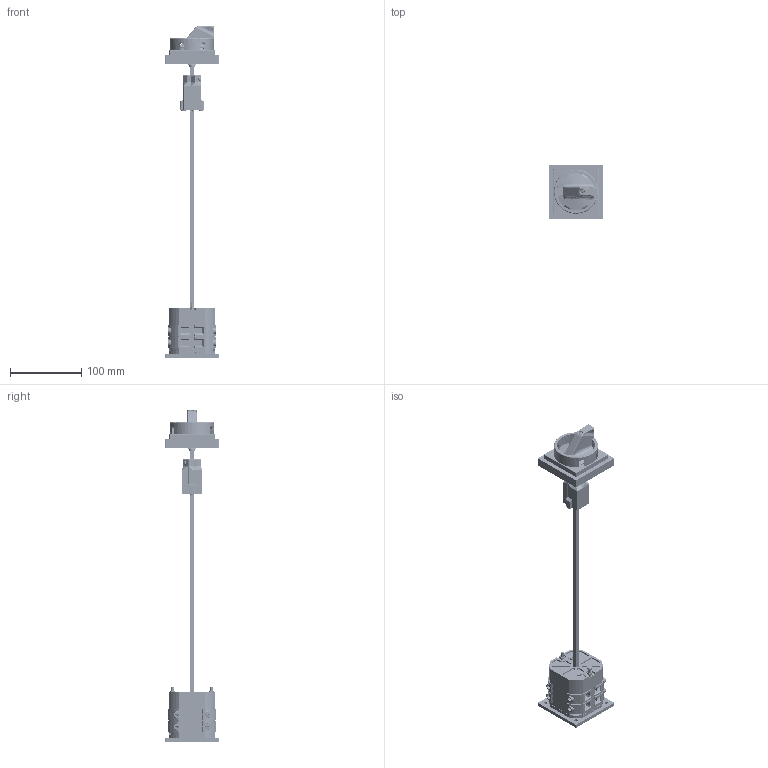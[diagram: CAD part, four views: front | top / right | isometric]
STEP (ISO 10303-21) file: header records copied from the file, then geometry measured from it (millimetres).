
FILE_DESCRIPTION (( 'STEP AP214' ), '1' );
FILE_NAME ('4G40,63,80-XXXX-OU-S8-S6,S25 2ê.STEP', '2023-02-15T10:02:22', ( '' ), ( '' ), 'SwSTEP 2.0', 'SolidWorks 2018', '' );
FILE_SCHEMA (( 'AUTOMOTIVE_DESIGN' ));
Length unit declared in the file: millimetre
Products named in the file (1): 4G40,63,80-XXXX-OU-S8-S6,S25 2ê
Bounding box: 76 x 76 x 467 mm (x, y, z)
Volume: 374164.6 mm3; surface area: 180522.8 mm2
Topology: 68 solids, 68 shells, 4383 faces, 11543 edges, 7320 vertices
Faces by surface type: plane 2294, cylinder 1672, torus 177, cone 126, bspline 79, sphere 35
Entity records: 277819 total; most frequent: CARTESIAN_POINT 123203, ORIENTED_EDGE 23032, DIRECTION 21091, EDGE_CURVE 11516, VERTEX_POINT 7318, AXIS2_PLACEMENT_3D 7131, VECTOR 6829, LINE 6829
